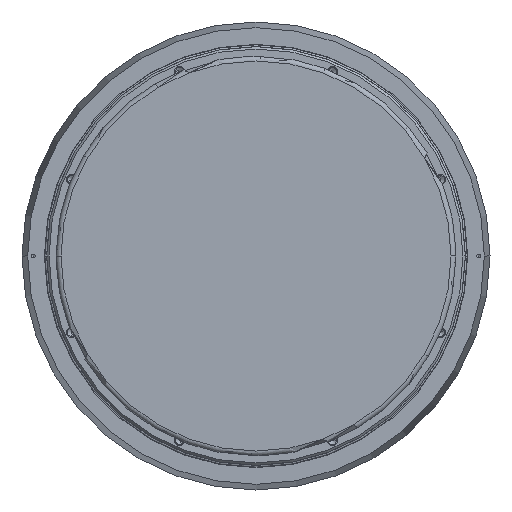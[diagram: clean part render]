
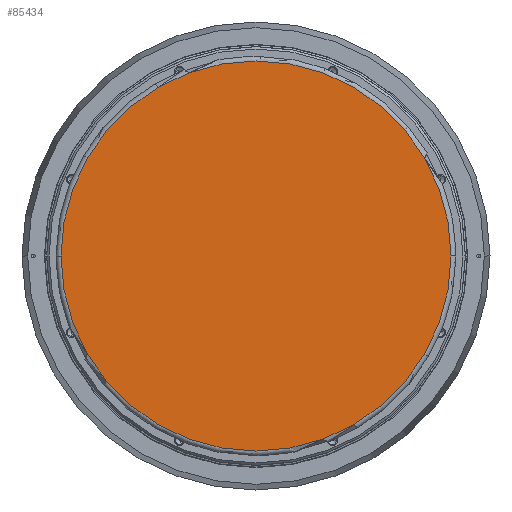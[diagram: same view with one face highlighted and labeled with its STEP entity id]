
A CAD part, front view. The second image highlights one B-rep face of the part: STEP entity #85434.
In plain terms, the highlighted planar face has unit normal (0, -1, 0).
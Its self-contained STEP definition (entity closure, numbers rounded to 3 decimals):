
#684 = CIRCLE ( 'NONE', #4042, 512.5 ) ;
#2557 = DIRECTION ( 'NONE',  ( 0., -1., 0. ) ) ;
#2804 = DIRECTION ( 'NONE',  ( 0., -1., 0. ) ) ;
#4042 = AXIS2_PLACEMENT_3D ( 'NONE', #78499, #2557, #91242 ) ;
#19147 = AXIS2_PLACEMENT_3D ( 'NONE', #131192, #55163, #143915 ) ;
#20589 = EDGE_LOOP ( 'NONE', ( #127385, #84296 ) ) ;
#27663 = PLANE ( 'NONE',  #48751 ) ;
#27965 = CARTESIAN_POINT ( 'NONE',  ( -512.5, 0., 0. ) ) ;
#28533 = VERTEX_POINT ( 'NONE', #88389 ) ;
#30888 = CIRCLE ( 'NONE', #19147, 512.5 ) ;
#46436 = EDGE_CURVE ( 'NONE', #122200, #28533, #684, .T. ) ;
#48751 = AXIS2_PLACEMENT_3D ( 'NONE', #78758, #2804, #91499 ) ;
#55163 = DIRECTION ( 'NONE',  ( 0., -1., 0. ) ) ;
#58815 = EDGE_CURVE ( 'NONE', #28533, #122200, #30888, .T. ) ;
#78499 = CARTESIAN_POINT ( 'NONE',  ( 0., 0., 0. ) ) ;
#78758 = CARTESIAN_POINT ( 'NONE',  ( 0., 0., 0. ) ) ;
#84296 = ORIENTED_EDGE ( 'NONE', *, *, #58815, .T. ) ;
#85434 = ADVANCED_FACE ( 'NONE', ( #123718 ), #27663, .T. ) ;
#88389 = CARTESIAN_POINT ( 'NONE',  ( 512.5, 0., 0. ) ) ;
#91242 = DIRECTION ( 'NONE',  ( 0., 0., -1. ) ) ;
#91499 = DIRECTION ( 'NONE',  ( 0., 0., -1. ) ) ;
#122200 = VERTEX_POINT ( 'NONE', #27965 ) ;
#123718 = FACE_OUTER_BOUND ( 'NONE', #20589, .T. ) ;
#127385 = ORIENTED_EDGE ( 'NONE', *, *, #46436, .T. ) ;
#131192 = CARTESIAN_POINT ( 'NONE',  ( 0., 0., 0. ) ) ;
#143915 = DIRECTION ( 'NONE',  ( 0., 0., -1. ) ) ;
